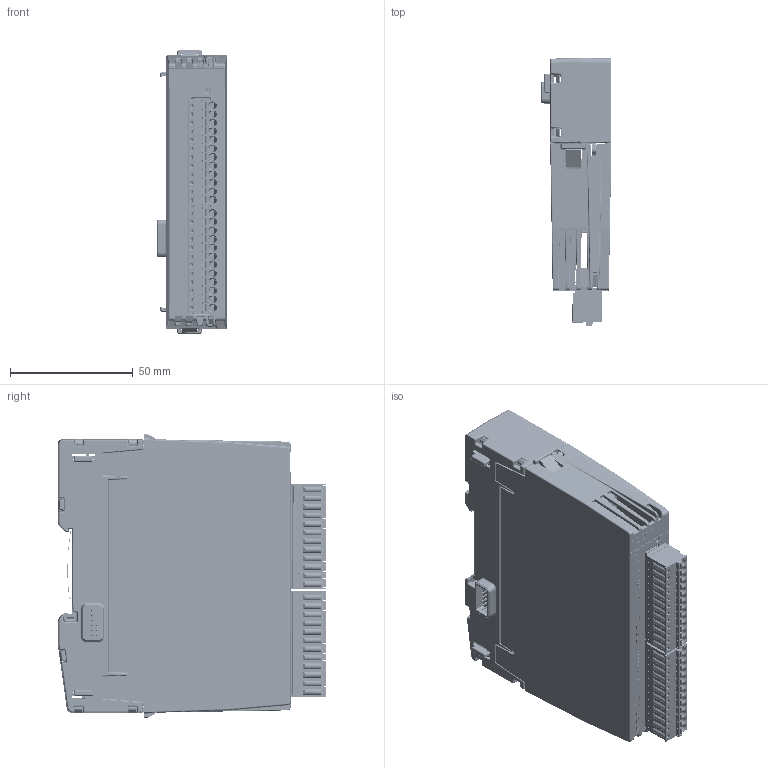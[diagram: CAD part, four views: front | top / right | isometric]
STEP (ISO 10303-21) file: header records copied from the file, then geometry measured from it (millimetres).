
FILE_DESCRIPTION(/* description */ (''),/* implementation_level */ '2;1');
FILE_NAME(/* name */ 'C:\Users\Public\Documents\Autodesk\Inventor 2023\DI20B_Simplified+BackBB21C.stp',/* time_stamp */ '2024-10-15T20:48:34+02:00',/* author */ ('shoma'),/* organization */ (''),/* preprocessor_version */ 'ST-DEVELOPER v19',/* originating_system */ 'Autodesk Inventor 2023',/* authorisation */ '');
FILE_SCHEMA (('AUTOMOTIVE_DESIGN { 1 0 10303 214 3 1 1 }'));
Products named in the file (1): DI20B_Simplified+BackBB21C
Bounding box: 28.9 x 109.39 x 115.5 mm (x, y, z)
Volume: 155201.1 mm3; surface area: 94769.7 mm2
Topology: 8 solids, 58 shells, 9472 faces, 25103 edges, 15808 vertices
Faces by surface type: plane 5734, cylinder 2404, bspline 898, cone 233, sphere 162, torus 41
Full cylindrical faces by diameter (mm): 0.296 x2, 0.3 x152, 0.457 x2, 0.7 x36, 0.8 x6, 0.85 x24, 0.9 x8, 1.17 x24, 1.2 x24, 1.25 x24, 1.3 x24, 1.4 x4, 1.6 x26, 2.35 x2, 2.5 x1, 3 x1, 3.1 x24, 3.25 x2
Entity records: 327254 total; most frequent: CARTESIAN_POINT 84237, ORIENTED_EDGE 49900, DIRECTION 46154, EDGE_CURVE 24950, LINE 17664, VECTOR 17664, VERTEX_POINT 15808, AXIS2_PLACEMENT_3D 14245
